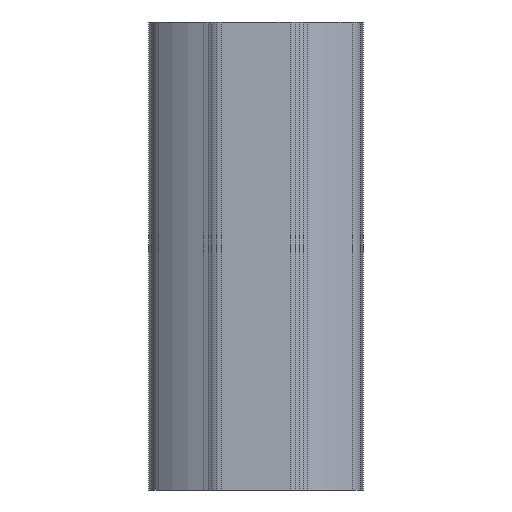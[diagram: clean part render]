
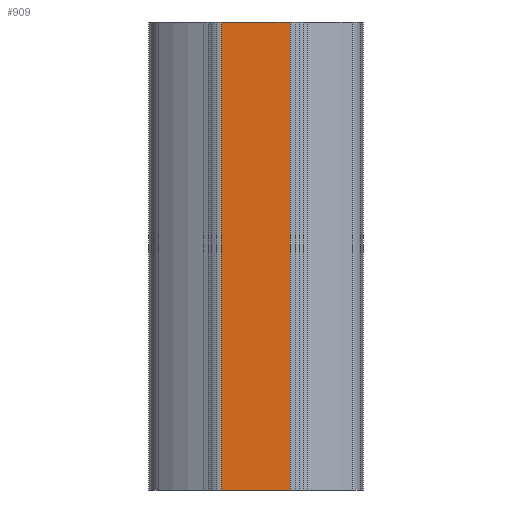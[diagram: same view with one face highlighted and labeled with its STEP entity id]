
A CAD part, left-side view. The second image highlights one B-rep face of the part: STEP entity #909.
In plain terms, the highlighted planar face has unit normal (-1, 0.002, 0).
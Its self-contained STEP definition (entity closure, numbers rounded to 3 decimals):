
#26 = DIRECTION ( 'NONE',  ( 1., -0.002, 0. ) ) ;
#174 = DIRECTION ( 'NONE',  ( -0.002, -1., 0. ) ) ;
#394 = CARTESIAN_POINT ( 'NONE',  ( 1225.392, 1596.377, 0. ) ) ;
#730 = CARTESIAN_POINT ( 'NONE',  ( 1225.365, 1581.658, 100. ) ) ;
#909 = ADVANCED_FACE ( 'NONE', ( #3333 ), #3142, .F. ) ;
#1040 = VERTEX_POINT ( 'NONE', #2282 ) ;
#1061 = EDGE_CURVE ( 'NONE', #2770, #2679, #2406, .T. ) ;
#1369 = DIRECTION ( 'NONE',  ( 0., 0., -1. ) ) ;
#1582 = CARTESIAN_POINT ( 'NONE',  ( 1225.365, 1581.658, 100. ) ) ;
#1584 = AXIS2_PLACEMENT_3D ( 'NONE', #730, #26, #3183 ) ;
#1677 = CARTESIAN_POINT ( 'NONE',  ( 1225.365, 1581.658, 0. ) ) ;
#1713 = VECTOR ( 'NONE', #4183, 1000. ) ;
#1733 = ORIENTED_EDGE ( 'NONE', *, *, #2009, .T. ) ;
#2009 = EDGE_CURVE ( 'NONE', #2770, #3963, #3222, .T. ) ;
#2035 = CARTESIAN_POINT ( 'NONE',  ( 1225.392, 1596.377, 100. ) ) ;
#2276 = EDGE_LOOP ( 'NONE', ( #4495, #2672, #2606, #1733 ) ) ;
#2282 = CARTESIAN_POINT ( 'NONE',  ( 1225.365, 1581.658, 0. ) ) ;
#2350 = VECTOR ( 'NONE', #1369, 1000. ) ;
#2406 = LINE ( 'NONE', #1582, #3969 ) ;
#2499 = CARTESIAN_POINT ( 'NONE',  ( 1225.365, 1581.658, 100. ) ) ;
#2606 = ORIENTED_EDGE ( 'NONE', *, *, #1061, .F. ) ;
#2636 = VECTOR ( 'NONE', #3432, 1000. ) ;
#2672 = ORIENTED_EDGE ( 'NONE', *, *, #3050, .F. ) ;
#2679 = VERTEX_POINT ( 'NONE', #2499 ) ;
#2770 = VERTEX_POINT ( 'NONE', #2823 ) ;
#2782 = LINE ( 'NONE', #1677, #1713 ) ;
#2823 = CARTESIAN_POINT ( 'NONE',  ( 1225.392, 1596.377, 100. ) ) ;
#3017 = EDGE_CURVE ( 'NONE', #3963, #1040, #2782, .T. ) ;
#3050 = EDGE_CURVE ( 'NONE', #2679, #1040, #3275, .T. ) ;
#3142 = PLANE ( 'NONE',  #1584 ) ;
#3183 = DIRECTION ( 'NONE',  ( 0.002, 1., 0. ) ) ;
#3222 = LINE ( 'NONE', #2035, #2636 ) ;
#3275 = LINE ( 'NONE', #3853, #2350 ) ;
#3333 = FACE_OUTER_BOUND ( 'NONE', #2276, .T. ) ;
#3432 = DIRECTION ( 'NONE',  ( 0., 0., -1. ) ) ;
#3853 = CARTESIAN_POINT ( 'NONE',  ( 1225.365, 1581.658, 100. ) ) ;
#3963 = VERTEX_POINT ( 'NONE', #394 ) ;
#3969 = VECTOR ( 'NONE', #174, 1000. ) ;
#4183 = DIRECTION ( 'NONE',  ( -0.002, -1., 0. ) ) ;
#4495 = ORIENTED_EDGE ( 'NONE', *, *, #3017, .T. ) ;
